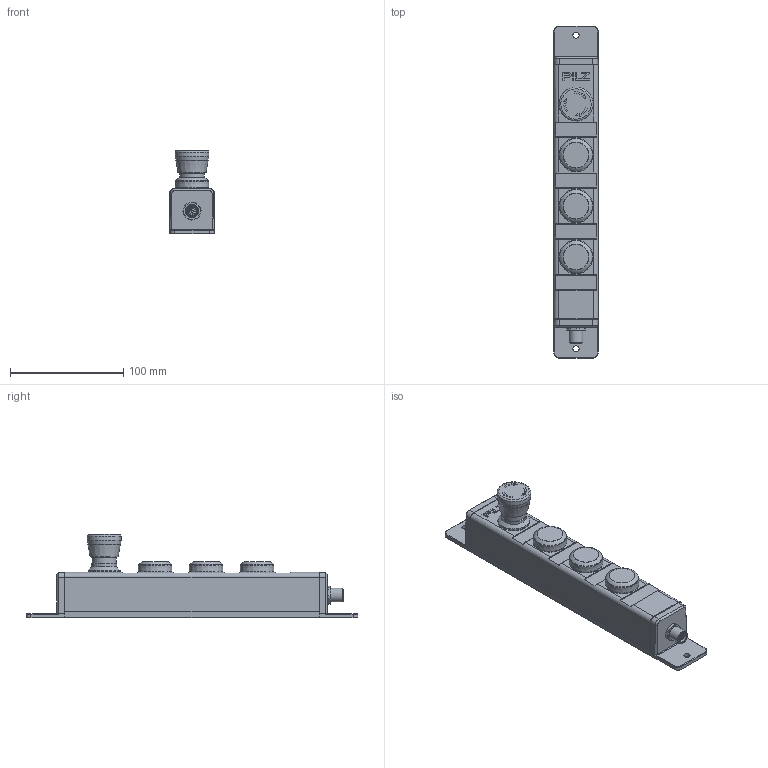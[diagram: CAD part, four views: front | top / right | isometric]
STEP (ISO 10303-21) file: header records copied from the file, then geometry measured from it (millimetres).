
FILE_DESCRIPTION(/* description */ (''),/* implementation_level */ '2;1');
FILE_NAME(/* name */ 'D:\_Vault\Workspace\Projektordner\Sensoren\PSENgatebox\Kundendaten/2024958_B_PIT gb XXXX.stp',/* time_stamp */ '2018-01-23T09:58:05+01:00',/* author */ ('jebe'),/* organization */ (''),/* preprocessor_version */ 'ST-DEVELOPER v16.5',/* originating_system */ 'Autodesk Inventor 2017',/* authorisation */ '');
FILE_SCHEMA (('AUTOMOTIVE_DESIGN { 1 0 10303 214 3 1 1 }'));
Length unit declared in the file: millimetre
Products named in the file (1): 2024959
Bounding box: 40 x 293 x 73.65 mm (x, y, z)
Volume: 419883.9 mm3; surface area: 51680.6 mm2
Topology: 1 solids, 1 shells, 493 faces, 1251 edges, 796 vertices
Faces by surface type: cylinder 161, plane 144, cone 116, torus 34, bspline 22, sphere 16
Full cylindrical faces by diameter (mm): 0.6 x12, 5.4 x2, 8.3 x1, 10.6 x1, 12 x1, 21.5 x1, 22.2 x1, 22.55 x1, 28 x1, 28.2 x1, 28.6 x3, 29.2 x3
Entity records: 15716 total; most frequent: CARTESIAN_POINT 4600, DIRECTION 2333, ORIENTED_EDGE 2230, EDGE_CURVE 1115, AXIS2_PLACEMENT_3D 962, VERTEX_POINT 737, EDGE_LOOP 610, FACE_OUTER_BOUND 493
